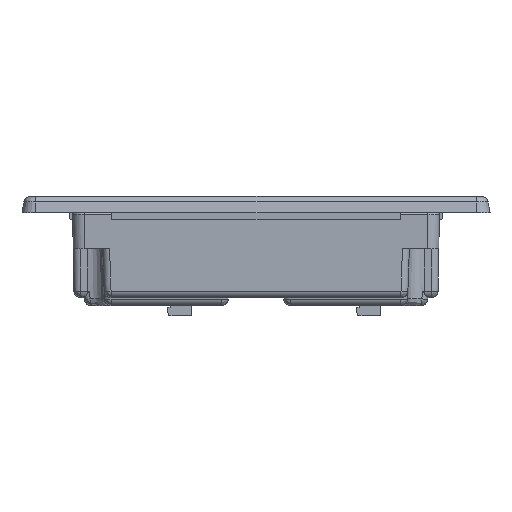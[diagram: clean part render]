
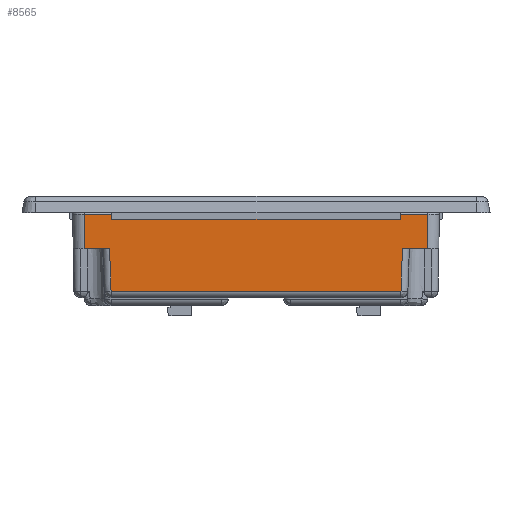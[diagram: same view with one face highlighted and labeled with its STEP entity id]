
A CAD part, left-side view. The second image highlights one B-rep face of the part: STEP entity #8565.
In plain terms, the highlighted planar face has unit normal (-1, 0, -0.018) as drawn and (1, 0, 0.017) by its records, which use the part's own axes.
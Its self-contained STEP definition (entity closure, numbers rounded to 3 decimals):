
#7291 = VECTOR ( 'NONE', #65723, 1000. ) ;
#8269 = VECTOR ( 'NONE', #137405, 1000. ) ;
#8565 = ADVANCED_FACE ( 'NONE', ( #174323 ), #52020, .T. ) ;
#15773 = CARTESIAN_POINT ( 'NONE',  ( 103.284, -62.204, -13.311 ) ) ;
#18581 = LINE ( 'NONE', #116775, #159496 ) ;
#22481 = CARTESIAN_POINT ( 'NONE',  ( 103.016, -52.662, 2.025 ) ) ;
#44066 = EDGE_CURVE ( 'NONE', #243593, #190956, #18581, .T. ) ;
#45586 = VERTEX_POINT ( 'NONE', #22481 ) ;
#45941 = LINE ( 'NONE', #200324, #91883 ) ;
#52020 = PLANE ( 'NONE',  #250798 ) ;
#55032 = DIRECTION ( 'NONE',  ( 1., 0., 0.017 ) ) ;
#65723 = DIRECTION ( 'NONE',  ( 0., 1., 0. ) ) ;
#69387 = DIRECTION ( 'NONE',  ( 0., -1., 0. ) ) ;
#79027 = ORIENTED_EDGE ( 'NONE', *, *, #229382, .T. ) ;
#79537 = VECTOR ( 'NONE', #112771, 1000. ) ;
#82651 = CARTESIAN_POINT ( 'NONE',  ( 103.016, 66.165, 2.025 ) ) ;
#91883 = VECTOR ( 'NONE', #100662, 1000. ) ;
#100662 = DIRECTION ( 'NONE',  ( -0.017, 0.035, 0.999 ) ) ;
#101319 = ORIENTED_EDGE ( 'NONE', *, *, #123338, .F. ) ;
#104492 = CARTESIAN_POINT ( 'NONE',  ( 103.284, 53.193, -13.311 ) ) ;
#106234 = VERTEX_POINT ( 'NONE', #270181 ) ;
#106826 = LINE ( 'NONE', #82651, #311592 ) ;
#112771 = DIRECTION ( 'NONE',  ( -0.017, -0.017, 1. ) ) ;
#116775 = CARTESIAN_POINT ( 'NONE',  ( 103.284, -66.169, -13.311 ) ) ;
#123338 = EDGE_CURVE ( 'NONE', #210209, #106234, #160798, .T. ) ;
#124033 = LINE ( 'NONE', #146553, #152526 ) ;
#127170 = CARTESIAN_POINT ( 'NONE',  ( 103.502, -62.422, -25.796 ) ) ;
#131736 = CARTESIAN_POINT ( 'NONE',  ( 103.016, 52.657, 2.025 ) ) ;
#137405 = DIRECTION ( 'NONE',  ( -0.017, -0.035, 0.999 ) ) ;
#142093 = EDGE_CURVE ( 'NONE', #294751, #237646, #165989, .T. ) ;
#146553 = CARTESIAN_POINT ( 'NONE',  ( 103.284, -62.204, -13.311 ) ) ;
#150611 = CARTESIAN_POINT ( 'NONE',  ( 103.284, -53.197, -13.311 ) ) ;
#152526 = VECTOR ( 'NONE', #173817, 1000. ) ;
#156692 = ORIENTED_EDGE ( 'NONE', *, *, #224218, .T. ) ;
#159496 = VECTOR ( 'NONE', #313108, 1000. ) ;
#160798 = LINE ( 'NONE', #284743, #7291 ) ;
#165989 = LINE ( 'NONE', #262647, #297858 ) ;
#173817 = DIRECTION ( 'NONE',  ( 0.017, -0.017, -1. ) ) ;
#174323 = FACE_OUTER_BOUND ( 'NONE', #277177, .T. ) ;
#183928 = DIRECTION ( 'NONE',  ( 0., -1., 0. ) ) ;
#186510 = ORIENTED_EDGE ( 'NONE', *, *, #293235, .T. ) ;
#190956 = VERTEX_POINT ( 'NONE', #150611 ) ;
#198408 = DIRECTION ( 'NONE',  ( 0., -1., 0. ) ) ;
#200324 = CARTESIAN_POINT ( 'NONE',  ( 102.976, -52.581, 4.324 ) ) ;
#206123 = CARTESIAN_POINT ( 'NONE',  ( 103.502, 62.418, -25.796 ) ) ;
#209297 = LINE ( 'NONE', #206123, #79537 ) ;
#210209 = VERTEX_POINT ( 'NONE', #104492 ) ;
#219194 = ORIENTED_EDGE ( 'NONE', *, *, #263308, .T. ) ;
#224218 = EDGE_CURVE ( 'NONE', #210209, #286707, #235627, .T. ) ;
#229382 = EDGE_CURVE ( 'NONE', #243593, #237646, #124033, .T. ) ;
#234235 = ORIENTED_EDGE ( 'NONE', *, *, #142093, .F. ) ;
#235627 = LINE ( 'NONE', #282340, #8269 ) ;
#237646 = VERTEX_POINT ( 'NONE', #127170 ) ;
#243593 = VERTEX_POINT ( 'NONE', #15773 ) ;
#243754 = ORIENTED_EDGE ( 'NONE', *, *, #44066, .F. ) ;
#250798 = AXIS2_PLACEMENT_3D ( 'NONE', #272561, #55032, #198408 ) ;
#261736 = ORIENTED_EDGE ( 'NONE', *, *, #294895, .F. ) ;
#262647 = CARTESIAN_POINT ( 'NONE',  ( 103.502, 66.165, -25.796 ) ) ;
#263308 = EDGE_CURVE ( 'NONE', #294751, #106234, #209297, .T. ) ;
#270181 = CARTESIAN_POINT ( 'NONE',  ( 103.284, 62.2, -13.311 ) ) ;
#272561 = CARTESIAN_POINT ( 'NONE',  ( 103.052, 66.165, -0.018 ) ) ;
#277177 = EDGE_LOOP ( 'NONE', ( #261736, #243754, #79027, #234235, #219194, #101319, #156692, #186510 ) ) ;
#277941 = CARTESIAN_POINT ( 'NONE',  ( 103.502, 62.418, -25.796 ) ) ;
#282340 = CARTESIAN_POINT ( 'NONE',  ( 103.284, 53.193, -13.311 ) ) ;
#284743 = CARTESIAN_POINT ( 'NONE',  ( 103.284, -66.169, -13.311 ) ) ;
#286707 = VERTEX_POINT ( 'NONE', #131736 ) ;
#293235 = EDGE_CURVE ( 'NONE', #286707, #45586, #106826, .T. ) ;
#294751 = VERTEX_POINT ( 'NONE', #277941 ) ;
#294895 = EDGE_CURVE ( 'NONE', #190956, #45586, #45941, .T. ) ;
#297858 = VECTOR ( 'NONE', #69387, 1000. ) ;
#311592 = VECTOR ( 'NONE', #183928, 1000. ) ;
#313108 = DIRECTION ( 'NONE',  ( 0., 1., 0. ) ) ;
